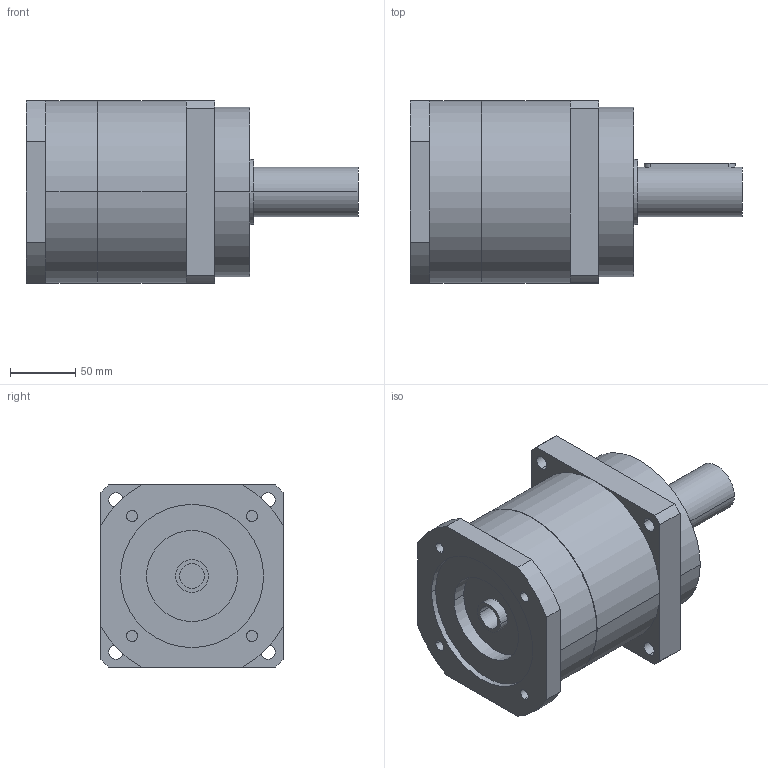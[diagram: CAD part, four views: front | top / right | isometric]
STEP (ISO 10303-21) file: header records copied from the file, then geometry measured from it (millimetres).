
FILE_DESCRIPTION(('CoCreate Modeling STEP Export'),'2;1');
FILE_NAME('GPR150_ig-3-4-5-7_38_B5_19_P04.stp','2014-08-19T16:42:06',(''),(''),'CoCreate Modeling STEP processor for AP214 (Solid Model)','CoCreate Modeling 16.00C 25-Feb-2009 (C) Parametric Technology GmbH','');
FILE_SCHEMA(('AUTOMOTIVE_DESIGN { 1 0 10303 214 1 1 1 1 }'));
Length unit declared in the file: millimetre
Products named in the file (2): GPR150_ig-3-4-5-7_38_B5_19_P04
Assembly tree (1 placements, depth 2):
  GPR150_ig-3-4-5-7_38_B5_19_P04
    GPR150_ig-3-4-5-7_38_B5_19_P04
Bounding box: 255 x 140 x 140 mm (x, y, z)
Volume: 2713119.6 mm3; surface area: 145366.5 mm2
Topology: 1 solids, 1 shells, 94 faces, 257 edges, 173 vertices
Faces by surface type: cylinder 54, plane 34, cone 6
Entity records: 2633 total; most frequent: ORIENTED_EDGE 510, CARTESIAN_POINT 478, DIRECTION 372, EDGE_CURVE 255, VERTEX_POINT 173, AXIS2_PLACEMENT_3D 139, EDGE_LOOP 120, VECTOR 94
